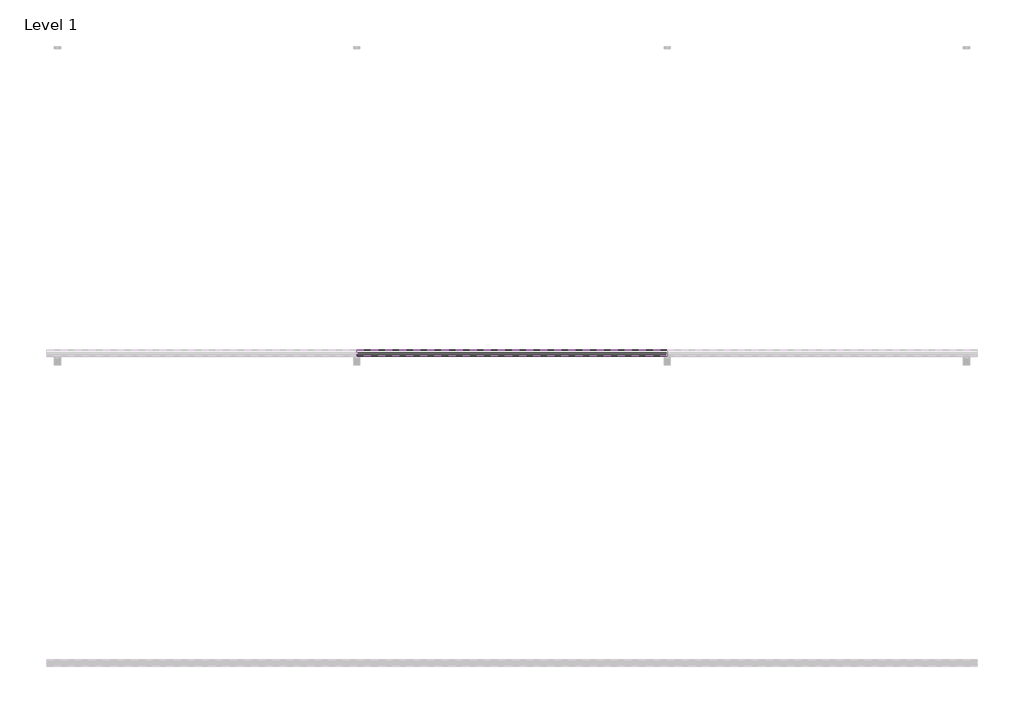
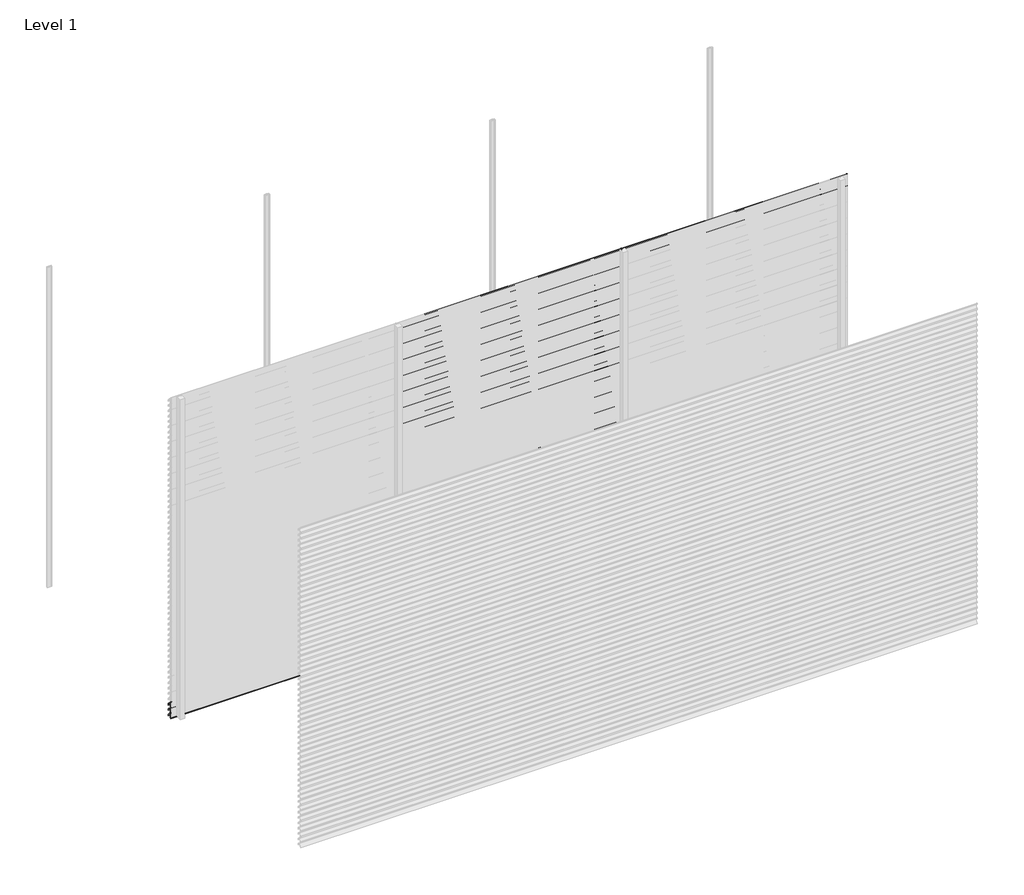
# One storey, part 19 of 38: 66 proxies.
"""IFC4 building model written with IfcOpenShell, lengths in millimetres."""

from ifc_helpers import new_model, si_unit, frame, origin, place, context, project, spatial, polyline, outline, extrude, element, save

model = new_model("IFC4")

# Units and contexts
model_context = context("Model", 3, world=origin())
ifc_project = project(units=[si_unit("LENGTHUNIT", "METRE", prefix="MILLI")], contexts=[model_context])

# Site, building, storey
site = spatial("IfcSite", under=ifc_project)
building = spatial("IfcBuilding", under=site)
storey = spatial("IfcBuildingStorey", under=building, Name="Level 1", Elevation=0.0)

# Proxies
placement = place(None, origin())
element("IfcBuildingElementProxy", 1, Name="Wall Sweeps", at=placement, inside=storey, context=model_context, shape_type="SweptSolid", body=[
    extrude(outline(polyline([(-29996.75, 150.0), (-29996.75, 139.19656), (-29974.6057113, 126.4115489), (-29957.0, 109.0472005), (-29957.0, 94.0472005), (-29958.3, 95.0268207), (-29958.3, 108.5034593), (-29969.4914725, 119.541504), (-29994.2797376, 90.0), (-29995.9767671, 90.0), (-29970.4200307, 120.4573323), (-29975.3999793, 125.3690091), (-29998.0, 138.4171371), (-29998.0, 150.0), (-29996.75, 150.0)])), frame((0.0, 0.0, 0.0), z_axis=(1.0, 0.0, 0.0), x_axis=(0.0, 1.0, 0.0)), (0.0, 0.0, 1.0), 2000.0),
])
element("IfcBuildingElementProxy", 2, Name="Wall Sweeps", at=placement, inside=storey, context=model_context, shape_type="SweptSolid", body=[
    extrude(outline(polyline([(-29996.75, 100.0), (-29996.75, 89.19656), (-29974.6057113, 76.4115489), (-29957.0, 59.0472005), (-29957.0, 44.0472005), (-29958.3, 45.0268207), (-29958.3, 58.5034593), (-29969.4914725, 69.541504), (-29994.2797376, 40.0), (-29995.9767671, 40.0), (-29970.4200307, 70.4573323), (-29975.3999793, 75.3690091), (-29998.0, 88.4171371), (-29998.0, 100.0), (-29996.75, 100.0)])), frame((0.0, 0.0, 0.0), z_axis=(1.0, 0.0, 0.0), x_axis=(0.0, 1.0, 0.0)), (0.0, 0.0, 1.0), 2000.0),
])
element("IfcBuildingElementProxy", 3, Name="Wall Sweeps", at=placement, inside=storey, context=model_context, shape_type="SweptSolid", body=[
    extrude(outline(polyline([(-29996.75, 50.0), (-29996.75, 39.19656), (-29974.6057113, 26.4115489), (-29957.0, 9.0472005), (-29957.0, -5.9527995), (-29958.3, -4.9731793), (-29958.3, 8.5034593), (-29969.4914725, 19.541504), (-29994.2797376, -10.0), (-29995.9767671, -10.0), (-29970.4200307, 20.4573323), (-29975.3999793, 25.3690091), (-29998.0, 38.4171371), (-29998.0, 50.0), (-29996.75, 50.0)])), frame((0.0, 0.0, 0.0), z_axis=(1.0, 0.0, 0.0), x_axis=(0.0, 1.0, 0.0)), (0.0, 0.0, 1.0), 2000.0),
])
element("IfcBuildingElementProxy", 4, Name="Wall Sweeps", at=placement, inside=storey, context=model_context, shape_type="SweptSolid", body=[
    extrude(outline(polyline([(-29996.75, 3000.0), (-29996.75, 2989.19656), (-29974.6057113, 2976.4115489), (-29957.0, 2959.0472005), (-29957.0, 2944.0472005), (-29958.3, 2945.0268207), (-29958.3, 2958.5034593), (-29969.4914725, 2969.541504), (-29994.2797376, 2940.0), (-29995.9767671, 2940.0), (-29970.4200307, 2970.4573323), (-29975.3999793, 2975.3690091), (-29998.0, 2988.4171371), (-29998.0, 3000.0), (-29996.75, 3000.0)])), frame((2000.0, 0.0, 0.0), z_axis=(1.0, 0.0, 0.0), x_axis=(0.0, 1.0, 0.0)), (0.0, 0.0, 1.0), 2000.0),
])
element("IfcBuildingElementProxy", 5, Name="Wall Sweeps", at=placement, inside=storey, context=model_context, shape_type="SweptSolid", body=[
    extrude(outline(polyline([(-29996.75, 2950.0), (-29996.75, 2939.19656), (-29974.6057113, 2926.4115489), (-29957.0, 2909.0472005), (-29957.0, 2894.0472005), (-29958.3, 2895.0268207), (-29958.3, 2908.5034593), (-29969.4914725, 2919.541504), (-29994.2797376, 2890.0), (-29995.9767671, 2890.0), (-29970.4200307, 2920.4573323), (-29975.3999793, 2925.3690091), (-29998.0, 2938.4171371), (-29998.0, 2950.0), (-29996.75, 2950.0)])), frame((2000.0, 0.0, 0.0), z_axis=(1.0, 0.0, 0.0), x_axis=(0.0, 1.0, 0.0)), (0.0, 0.0, 1.0), 2000.0),
])
element("IfcBuildingElementProxy", 6, Name="Wall Sweeps", at=placement, inside=storey, context=model_context, shape_type="SweptSolid", body=[
    extrude(outline(polyline([(-29996.75, 2900.0), (-29996.75, 2889.19656), (-29974.6057113, 2876.4115489), (-29957.0, 2859.0472005), (-29957.0, 2844.0472005), (-29958.3, 2845.0268207), (-29958.3, 2858.5034593), (-29969.4914725, 2869.541504), (-29994.2797376, 2840.0), (-29995.9767671, 2840.0), (-29970.4200307, 2870.4573323), (-29975.3999793, 2875.3690091), (-29998.0, 2888.4171371), (-29998.0, 2900.0), (-29996.75, 2900.0)])), frame((2000.0, 0.0, 0.0), z_axis=(1.0, 0.0, 0.0), x_axis=(0.0, 1.0, 0.0)), (0.0, 0.0, 1.0), 2000.0),
])
element("IfcBuildingElementProxy", 7, Name="Wall Sweeps", at=placement, inside=storey, context=model_context, shape_type="SweptSolid", body=[
    extrude(outline(polyline([(-29996.75, 2850.0), (-29996.75, 2839.19656), (-29974.6057113, 2826.4115489), (-29957.0, 2809.0472005), (-29957.0, 2794.0472005), (-29958.3, 2795.0268207), (-29958.3, 2808.5034593), (-29969.4914725, 2819.541504), (-29994.2797376, 2790.0), (-29995.9767671, 2790.0), (-29970.4200307, 2820.4573323), (-29975.3999793, 2825.3690091), (-29998.0, 2838.4171371), (-29998.0, 2850.0), (-29996.75, 2850.0)])), frame((2000.0, 0.0, 0.0), z_axis=(1.0, 0.0, 0.0), x_axis=(0.0, 1.0, 0.0)), (0.0, 0.0, 1.0), 2000.0),
])
element("IfcBuildingElementProxy", 8, Name="Wall Sweeps", at=placement, inside=storey, context=model_context, shape_type="SweptSolid", body=[
    extrude(outline(polyline([(-29996.75, 2800.0), (-29996.75, 2789.19656), (-29974.6057113, 2776.4115489), (-29957.0, 2759.0472005), (-29957.0, 2744.0472005), (-29958.3, 2745.0268207), (-29958.3, 2758.5034593), (-29969.4914725, 2769.541504), (-29994.2797376, 2740.0), (-29995.9767671, 2740.0), (-29970.4200307, 2770.4573323), (-29975.3999793, 2775.3690091), (-29998.0, 2788.4171371), (-29998.0, 2800.0), (-29996.75, 2800.0)])), frame((2000.0, 0.0, 0.0), z_axis=(1.0, 0.0, 0.0), x_axis=(0.0, 1.0, 0.0)), (0.0, 0.0, 1.0), 2000.0),
])
element("IfcBuildingElementProxy", 9, Name="Wall Sweeps", at=placement, inside=storey, context=model_context, shape_type="SweptSolid", body=[
    extrude(outline(polyline([(-29996.75, 2750.0), (-29996.75, 2739.19656), (-29974.6057113, 2726.4115489), (-29957.0, 2709.0472005), (-29957.0, 2694.0472005), (-29958.3, 2695.0268207), (-29958.3, 2708.5034593), (-29969.4914725, 2719.541504), (-29994.2797376, 2690.0), (-29995.9767671, 2690.0), (-29970.4200307, 2720.4573323), (-29975.3999793, 2725.3690091), (-29998.0, 2738.4171371), (-29998.0, 2750.0), (-29996.75, 2750.0)])), frame((2000.0, 0.0, 0.0), z_axis=(1.0, 0.0, 0.0), x_axis=(0.0, 1.0, 0.0)), (0.0, 0.0, 1.0), 2000.0),
])
element("IfcBuildingElementProxy", 10, Name="Wall Sweeps", at=placement, inside=storey, context=model_context, shape_type="SweptSolid", body=[
    extrude(outline(polyline([(-29996.75, 2700.0), (-29996.75, 2689.19656), (-29974.6057113, 2676.4115489), (-29957.0, 2659.0472005), (-29957.0, 2644.0472005), (-29958.3, 2645.0268207), (-29958.3, 2658.5034593), (-29969.4914725, 2669.541504), (-29994.2797376, 2640.0), (-29995.9767671, 2640.0), (-29970.4200307, 2670.4573323), (-29975.3999793, 2675.3690091), (-29998.0, 2688.4171371), (-29998.0, 2700.0), (-29996.75, 2700.0)])), frame((2000.0, 0.0, 0.0), z_axis=(1.0, 0.0, 0.0), x_axis=(0.0, 1.0, 0.0)), (0.0, 0.0, 1.0), 2000.0),
])
element("IfcBuildingElementProxy", 11, Name="Wall Sweeps", at=placement, inside=storey, context=model_context, shape_type="SweptSolid", body=[
    extrude(outline(polyline([(-29996.75, 2650.0), (-29996.75, 2639.19656), (-29974.6057113, 2626.4115489), (-29957.0, 2609.0472005), (-29957.0, 2594.0472005), (-29958.3, 2595.0268207), (-29958.3, 2608.5034593), (-29969.4914725, 2619.541504), (-29994.2797376, 2590.0), (-29995.9767671, 2590.0), (-29970.4200307, 2620.4573323), (-29975.3999793, 2625.3690091), (-29998.0, 2638.4171371), (-29998.0, 2650.0), (-29996.75, 2650.0)])), frame((2000.0, 0.0, 0.0), z_axis=(1.0, 0.0, 0.0), x_axis=(0.0, 1.0, 0.0)), (0.0, 0.0, 1.0), 2000.0),
])
element("IfcBuildingElementProxy", 12, Name="Wall Sweeps", at=placement, inside=storey, context=model_context, shape_type="SweptSolid", body=[
    extrude(outline(polyline([(-29996.75, 2600.0), (-29996.75, 2589.19656), (-29974.6057113, 2576.4115489), (-29957.0, 2559.0472005), (-29957.0, 2544.0472005), (-29958.3, 2545.0268207), (-29958.3, 2558.5034593), (-29969.4914725, 2569.541504), (-29994.2797376, 2540.0), (-29995.9767671, 2540.0), (-29970.4200307, 2570.4573323), (-29975.3999793, 2575.3690091), (-29998.0, 2588.4171371), (-29998.0, 2600.0), (-29996.75, 2600.0)])), frame((2000.0, 0.0, 0.0), z_axis=(1.0, 0.0, 0.0), x_axis=(0.0, 1.0, 0.0)), (0.0, 0.0, 1.0), 2000.0),
])
element("IfcBuildingElementProxy", 13, Name="Wall Sweeps", at=placement, inside=storey, context=model_context, shape_type="SweptSolid", body=[
    extrude(outline(polyline([(-29996.75, 2550.0), (-29996.75, 2539.19656), (-29974.6057113, 2526.4115489), (-29957.0, 2509.0472005), (-29957.0, 2494.0472005), (-29958.3, 2495.0268207), (-29958.3, 2508.5034593), (-29969.4914725, 2519.541504), (-29994.2797376, 2490.0), (-29995.9767671, 2490.0), (-29970.4200307, 2520.4573323), (-29975.3999793, 2525.3690091), (-29998.0, 2538.4171371), (-29998.0, 2550.0), (-29996.75, 2550.0)])), frame((2000.0, 0.0, 0.0), z_axis=(1.0, 0.0, 0.0), x_axis=(0.0, 1.0, 0.0)), (0.0, 0.0, 1.0), 2000.0),
])
element("IfcBuildingElementProxy", 14, Name="Wall Sweeps", at=placement, inside=storey, context=model_context, shape_type="SweptSolid", body=[
    extrude(outline(polyline([(-29996.75, 2500.0), (-29996.75, 2489.19656), (-29974.6057113, 2476.4115489), (-29957.0, 2459.0472005), (-29957.0, 2444.0472005), (-29958.3, 2445.0268207), (-29958.3, 2458.5034593), (-29969.4914725, 2469.541504), (-29994.2797376, 2440.0), (-29995.9767671, 2440.0), (-29970.4200307, 2470.4573323), (-29975.3999793, 2475.3690091), (-29998.0, 2488.4171371), (-29998.0, 2500.0), (-29996.75, 2500.0)])), frame((2000.0, 0.0, 0.0), z_axis=(1.0, 0.0, 0.0), x_axis=(0.0, 1.0, 0.0)), (0.0, 0.0, 1.0), 2000.0),
])
element("IfcBuildingElementProxy", 15, Name="Wall Sweeps", at=placement, inside=storey, context=model_context, shape_type="SweptSolid", body=[
    extrude(outline(polyline([(-29996.75, 2450.0), (-29996.75, 2439.19656), (-29974.6057113, 2426.4115489), (-29957.0, 2409.0472005), (-29957.0, 2394.0472005), (-29958.3, 2395.0268207), (-29958.3, 2408.5034593), (-29969.4914725, 2419.541504), (-29994.2797376, 2390.0), (-29995.9767671, 2390.0), (-29970.4200307, 2420.4573323), (-29975.3999793, 2425.3690091), (-29998.0, 2438.4171371), (-29998.0, 2450.0), (-29996.75, 2450.0)])), frame((2000.0, 0.0, 0.0), z_axis=(1.0, 0.0, 0.0), x_axis=(0.0, 1.0, 0.0)), (0.0, 0.0, 1.0), 2000.0),
])
element("IfcBuildingElementProxy", 16, Name="Wall Sweeps", at=placement, inside=storey, context=model_context, shape_type="SweptSolid", body=[
    extrude(outline(polyline([(-29996.75, 2400.0), (-29996.75, 2389.19656), (-29974.6057113, 2376.4115489), (-29957.0, 2359.0472005), (-29957.0, 2344.0472005), (-29958.3, 2345.0268207), (-29958.3, 2358.5034593), (-29969.4914725, 2369.541504), (-29994.2797376, 2340.0), (-29995.9767671, 2340.0), (-29970.4200307, 2370.4573323), (-29975.3999793, 2375.3690091), (-29998.0, 2388.4171371), (-29998.0, 2400.0), (-29996.75, 2400.0)])), frame((2000.0, 0.0, 0.0), z_axis=(1.0, 0.0, 0.0), x_axis=(0.0, 1.0, 0.0)), (0.0, 0.0, 1.0), 2000.0),
])
element("IfcBuildingElementProxy", 17, Name="Wall Sweeps", at=placement, inside=storey, context=model_context, shape_type="SweptSolid", body=[
    extrude(outline(polyline([(-29996.75, 2350.0), (-29996.75, 2339.19656), (-29974.6057113, 2326.4115489), (-29957.0, 2309.0472005), (-29957.0, 2294.0472005), (-29958.3, 2295.0268207), (-29958.3, 2308.5034593), (-29969.4914725, 2319.541504), (-29994.2797376, 2290.0), (-29995.9767671, 2290.0), (-29970.4200307, 2320.4573323), (-29975.3999793, 2325.3690091), (-29998.0, 2338.4171371), (-29998.0, 2350.0), (-29996.75, 2350.0)])), frame((2000.0, 0.0, 0.0), z_axis=(1.0, 0.0, 0.0), x_axis=(0.0, 1.0, 0.0)), (0.0, 0.0, 1.0), 2000.0),
])
element("IfcBuildingElementProxy", 18, Name="Wall Sweeps", at=placement, inside=storey, context=model_context, shape_type="SweptSolid", body=[
    extrude(outline(polyline([(-29996.75, 2300.0), (-29996.75, 2289.19656), (-29974.6057113, 2276.4115489), (-29957.0, 2259.0472005), (-29957.0, 2244.0472005), (-29958.3, 2245.0268207), (-29958.3, 2258.5034593), (-29969.4914725, 2269.541504), (-29994.2797376, 2240.0), (-29995.9767671, 2240.0), (-29970.4200307, 2270.4573323), (-29975.3999793, 2275.3690091), (-29998.0, 2288.4171371), (-29998.0, 2300.0), (-29996.75, 2300.0)])), frame((2000.0, 0.0, 0.0), z_axis=(1.0, 0.0, 0.0), x_axis=(0.0, 1.0, 0.0)), (0.0, 0.0, 1.0), 2000.0),
])
element("IfcBuildingElementProxy", 19, Name="Wall Sweeps", at=placement, inside=storey, context=model_context, shape_type="SweptSolid", body=[
    extrude(outline(polyline([(-29996.75, 2250.0), (-29996.75, 2239.19656), (-29974.6057113, 2226.4115489), (-29957.0, 2209.0472005), (-29957.0, 2194.0472005), (-29958.3, 2195.0268207), (-29958.3, 2208.5034593), (-29969.4914725, 2219.541504), (-29994.2797376, 2190.0), (-29995.9767671, 2190.0), (-29970.4200307, 2220.4573323), (-29975.3999793, 2225.3690091), (-29998.0, 2238.4171371), (-29998.0, 2250.0), (-29996.75, 2250.0)])), frame((2000.0, 0.0, 0.0), z_axis=(1.0, 0.0, 0.0), x_axis=(0.0, 1.0, 0.0)), (0.0, 0.0, 1.0), 2000.0),
])
element("IfcBuildingElementProxy", 20, Name="Wall Sweeps", at=placement, inside=storey, context=model_context, shape_type="SweptSolid", body=[
    extrude(outline(polyline([(-29996.75, 2200.0), (-29996.75, 2189.19656), (-29974.6057113, 2176.4115489), (-29957.0, 2159.0472005), (-29957.0, 2144.0472005), (-29958.3, 2145.0268207), (-29958.3, 2158.5034593), (-29969.4914725, 2169.541504), (-29994.2797376, 2140.0), (-29995.9767671, 2140.0), (-29970.4200307, 2170.4573323), (-29975.3999793, 2175.3690091), (-29998.0, 2188.4171371), (-29998.0, 2200.0), (-29996.75, 2200.0)])), frame((2000.0, 0.0, 0.0), z_axis=(1.0, 0.0, 0.0), x_axis=(0.0, 1.0, 0.0)), (0.0, 0.0, 1.0), 2000.0),
])
element("IfcBuildingElementProxy", 21, Name="Wall Sweeps", at=placement, inside=storey, context=model_context, shape_type="SweptSolid", body=[
    extrude(outline(polyline([(-29996.75, 2150.0), (-29996.75, 2139.19656), (-29974.6057113, 2126.4115489), (-29957.0, 2109.0472005), (-29957.0, 2094.0472005), (-29958.3, 2095.0268207), (-29958.3, 2108.5034593), (-29969.4914725, 2119.541504), (-29994.2797376, 2090.0), (-29995.9767671, 2090.0), (-29970.4200307, 2120.4573323), (-29975.3999793, 2125.3690091), (-29998.0, 2138.4171371), (-29998.0, 2150.0), (-29996.75, 2150.0)])), frame((2000.0, 0.0, 0.0), z_axis=(1.0, 0.0, 0.0), x_axis=(0.0, 1.0, 0.0)), (0.0, 0.0, 1.0), 2000.0),
])
element("IfcBuildingElementProxy", 22, Name="Wall Sweeps", at=placement, inside=storey, context=model_context, shape_type="SweptSolid", body=[
    extrude(outline(polyline([(-29996.75, 2100.0), (-29996.75, 2089.19656), (-29974.6057113, 2076.4115489), (-29957.0, 2059.0472005), (-29957.0, 2044.0472005), (-29958.3, 2045.0268207), (-29958.3, 2058.5034593), (-29969.4914725, 2069.541504), (-29994.2797376, 2040.0), (-29995.9767671, 2040.0), (-29970.4200307, 2070.4573323), (-29975.3999793, 2075.3690091), (-29998.0, 2088.4171371), (-29998.0, 2100.0), (-29996.75, 2100.0)])), frame((2000.0, 0.0, 0.0), z_axis=(1.0, 0.0, 0.0), x_axis=(0.0, 1.0, 0.0)), (0.0, 0.0, 1.0), 2000.0),
])
element("IfcBuildingElementProxy", 23, Name="Wall Sweeps", at=placement, inside=storey, context=model_context, shape_type="SweptSolid", body=[
    extrude(outline(polyline([(-29996.75, 2050.0), (-29996.75, 2039.19656), (-29974.6057113, 2026.4115489), (-29957.0, 2009.0472005), (-29957.0, 1994.0472005), (-29958.3, 1995.0268207), (-29958.3, 2008.5034593), (-29969.4914725, 2019.541504), (-29994.2797376, 1990.0), (-29995.9767671, 1990.0), (-29970.4200307, 2020.4573323), (-29975.3999793, 2025.3690091), (-29998.0, 2038.4171371), (-29998.0, 2050.0), (-29996.75, 2050.0)])), frame((2000.0, 0.0, 0.0), z_axis=(1.0, 0.0, 0.0), x_axis=(0.0, 1.0, 0.0)), (0.0, 0.0, 1.0), 2000.0),
])
element("IfcBuildingElementProxy", 24, Name="Wall Sweeps", at=placement, inside=storey, context=model_context, shape_type="SweptSolid", body=[
    extrude(outline(polyline([(-29996.75, 2000.0), (-29996.75, 1989.19656), (-29974.6057113, 1976.4115489), (-29957.0, 1959.0472005), (-29957.0, 1944.0472005), (-29958.3, 1945.0268207), (-29958.3, 1958.5034593), (-29969.4914725, 1969.541504), (-29994.2797376, 1940.0), (-29995.9767671, 1940.0), (-29970.4200307, 1970.4573323), (-29975.3999793, 1975.3690091), (-29998.0, 1988.4171371), (-29998.0, 2000.0), (-29996.75, 2000.0)])), frame((2000.0, 0.0, 0.0), z_axis=(1.0, 0.0, 0.0), x_axis=(0.0, 1.0, 0.0)), (0.0, 0.0, 1.0), 2000.0),
])
element("IfcBuildingElementProxy", 25, Name="Wall Sweeps", at=placement, inside=storey, context=model_context, shape_type="SweptSolid", body=[
    extrude(outline(polyline([(-29996.75, 1950.0), (-29996.75, 1939.19656), (-29974.6057113, 1926.4115489), (-29957.0, 1909.0472005), (-29957.0, 1894.0472005), (-29958.3, 1895.0268207), (-29958.3, 1908.5034593), (-29969.4914725, 1919.541504), (-29994.2797376, 1890.0), (-29995.9767671, 1890.0), (-29970.4200307, 1920.4573323), (-29975.3999793, 1925.3690091), (-29998.0, 1938.4171371), (-29998.0, 1950.0), (-29996.75, 1950.0)])), frame((2000.0, 0.0, 0.0), z_axis=(1.0, 0.0, 0.0), x_axis=(0.0, 1.0, 0.0)), (0.0, 0.0, 1.0), 2000.0),
])
element("IfcBuildingElementProxy", 26, Name="Wall Sweeps", at=placement, inside=storey, context=model_context, shape_type="SweptSolid", body=[
    extrude(outline(polyline([(-29996.75, 1900.0), (-29996.75, 1889.19656), (-29974.6057113, 1876.4115489), (-29957.0, 1859.0472005), (-29957.0, 1844.0472005), (-29958.3, 1845.0268207), (-29958.3, 1858.5034593), (-29969.4914725, 1869.541504), (-29994.2797376, 1840.0), (-29995.9767671, 1840.0), (-29970.4200307, 1870.4573323), (-29975.3999793, 1875.3690091), (-29998.0, 1888.4171371), (-29998.0, 1900.0), (-29996.75, 1900.0)])), frame((2000.0, 0.0, 0.0), z_axis=(1.0, 0.0, 0.0), x_axis=(0.0, 1.0, 0.0)), (0.0, 0.0, 1.0), 2000.0),
])
element("IfcBuildingElementProxy", 27, Name="Wall Sweeps", at=placement, inside=storey, context=model_context, shape_type="SweptSolid", body=[
    extrude(outline(polyline([(-29996.75, 1850.0), (-29996.75, 1839.19656), (-29974.6057113, 1826.4115489), (-29957.0, 1809.0472005), (-29957.0, 1794.0472005), (-29958.3, 1795.0268207), (-29958.3, 1808.5034593), (-29969.4914725, 1819.541504), (-29994.2797376, 1790.0), (-29995.9767671, 1790.0), (-29970.4200307, 1820.4573323), (-29975.3999793, 1825.3690091), (-29998.0, 1838.4171371), (-29998.0, 1850.0), (-29996.75, 1850.0)])), frame((2000.0, 0.0, 0.0), z_axis=(1.0, 0.0, 0.0), x_axis=(0.0, 1.0, 0.0)), (0.0, 0.0, 1.0), 2000.0),
])
element("IfcBuildingElementProxy", 28, Name="Wall Sweeps", at=placement, inside=storey, context=model_context, shape_type="SweptSolid", body=[
    extrude(outline(polyline([(-29996.75, 1800.0), (-29996.75, 1789.19656), (-29974.6057113, 1776.4115489), (-29957.0, 1759.0472005), (-29957.0, 1744.0472005), (-29958.3, 1745.0268207), (-29958.3, 1758.5034593), (-29969.4914725, 1769.541504), (-29994.2797376, 1740.0), (-29995.9767671, 1740.0), (-29970.4200307, 1770.4573323), (-29975.3999793, 1775.3690091), (-29998.0, 1788.4171371), (-29998.0, 1800.0), (-29996.75, 1800.0)])), frame((2000.0, 0.0, 0.0), z_axis=(1.0, 0.0, 0.0), x_axis=(0.0, 1.0, 0.0)), (0.0, 0.0, 1.0), 2000.0),
])
element("IfcBuildingElementProxy", 29, Name="Wall Sweeps", at=placement, inside=storey, context=model_context, shape_type="SweptSolid", body=[
    extrude(outline(polyline([(-29996.75, 1750.0), (-29996.75, 1739.19656), (-29974.6057113, 1726.4115489), (-29957.0, 1709.0472005), (-29957.0, 1694.0472005), (-29958.3, 1695.0268207), (-29958.3, 1708.5034593), (-29969.4914725, 1719.541504), (-29994.2797376, 1690.0), (-29995.9767671, 1690.0), (-29970.4200307, 1720.4573323), (-29975.3999793, 1725.3690091), (-29998.0, 1738.4171371), (-29998.0, 1750.0), (-29996.75, 1750.0)])), frame((2000.0, 0.0, 0.0), z_axis=(1.0, 0.0, 0.0), x_axis=(0.0, 1.0, 0.0)), (0.0, 0.0, 1.0), 2000.0),
])
element("IfcBuildingElementProxy", 30, Name="Wall Sweeps", at=placement, inside=storey, context=model_context, shape_type="SweptSolid", body=[
    extrude(outline(polyline([(-29996.75, 1700.0), (-29996.75, 1689.19656), (-29974.6057113, 1676.4115489), (-29957.0, 1659.0472005), (-29957.0, 1644.0472005), (-29958.3, 1645.0268207), (-29958.3, 1658.5034593), (-29969.4914725, 1669.541504), (-29994.2797376, 1640.0), (-29995.9767671, 1640.0), (-29970.4200307, 1670.4573323), (-29975.3999793, 1675.3690091), (-29998.0, 1688.4171371), (-29998.0, 1700.0), (-29996.75, 1700.0)])), frame((2000.0, 0.0, 0.0), z_axis=(1.0, 0.0, 0.0), x_axis=(0.0, 1.0, 0.0)), (0.0, 0.0, 1.0), 2000.0),
])
element("IfcBuildingElementProxy", 31, Name="Wall Sweeps", at=placement, inside=storey, context=model_context, shape_type="SweptSolid", body=[
    extrude(outline(polyline([(-29996.75, 1650.0), (-29996.75, 1639.19656), (-29974.6057113, 1626.4115489), (-29957.0, 1609.0472005), (-29957.0, 1594.0472005), (-29958.3, 1595.0268207), (-29958.3, 1608.5034593), (-29969.4914725, 1619.541504), (-29994.2797376, 1590.0), (-29995.9767671, 1590.0), (-29970.4200307, 1620.4573323), (-29975.3999793, 1625.3690091), (-29998.0, 1638.4171371), (-29998.0, 1650.0), (-29996.75, 1650.0)])), frame((2000.0, 0.0, 0.0), z_axis=(1.0, 0.0, 0.0), x_axis=(0.0, 1.0, 0.0)), (0.0, 0.0, 1.0), 2000.0),
])
element("IfcBuildingElementProxy", 32, Name="Wall Sweeps", at=placement, inside=storey, context=model_context, shape_type="SweptSolid", body=[
    extrude(outline(polyline([(-29996.75, 1600.0), (-29996.75, 1589.19656), (-29974.6057113, 1576.4115489), (-29957.0, 1559.0472005), (-29957.0, 1544.0472005), (-29958.3, 1545.0268207), (-29958.3, 1558.5034593), (-29969.4914725, 1569.541504), (-29994.2797376, 1540.0), (-29995.9767671, 1540.0), (-29970.4200307, 1570.4573323), (-29975.3999793, 1575.3690091), (-29998.0, 1588.4171371), (-29998.0, 1600.0), (-29996.75, 1600.0)])), frame((2000.0, 0.0, 0.0), z_axis=(1.0, 0.0, 0.0), x_axis=(0.0, 1.0, 0.0)), (0.0, 0.0, 1.0), 2000.0),
])
element("IfcBuildingElementProxy", 33, Name="Wall Sweeps", at=placement, inside=storey, context=model_context, shape_type="SweptSolid", body=[
    extrude(outline(polyline([(-29996.75, 1550.0), (-29996.75, 1539.19656), (-29974.6057113, 1526.4115489), (-29957.0, 1509.0472005), (-29957.0, 1494.0472005), (-29958.3, 1495.0268207), (-29958.3, 1508.5034593), (-29969.4914725, 1519.541504), (-29994.2797376, 1490.0), (-29995.9767671, 1490.0), (-29970.4200307, 1520.4573323), (-29975.3999793, 1525.3690091), (-29998.0, 1538.4171371), (-29998.0, 1550.0), (-29996.75, 1550.0)])), frame((2000.0, 0.0, 0.0), z_axis=(1.0, 0.0, 0.0), x_axis=(0.0, 1.0, 0.0)), (0.0, 0.0, 1.0), 2000.0),
])
element("IfcBuildingElementProxy", 34, Name="Wall Sweeps", at=placement, inside=storey, context=model_context, shape_type="SweptSolid", body=[
    extrude(outline(polyline([(-29996.75, 1500.0), (-29996.75, 1489.19656), (-29974.6057113, 1476.4115489), (-29957.0, 1459.0472005), (-29957.0, 1444.0472005), (-29958.3, 1445.0268207), (-29958.3, 1458.5034593), (-29969.4914725, 1469.541504), (-29994.2797376, 1440.0), (-29995.9767671, 1440.0), (-29970.4200307, 1470.4573323), (-29975.3999793, 1475.3690091), (-29998.0, 1488.4171371), (-29998.0, 1500.0), (-29996.75, 1500.0)])), frame((2000.0, 0.0, 0.0), z_axis=(1.0, 0.0, 0.0), x_axis=(0.0, 1.0, 0.0)), (0.0, 0.0, 1.0), 2000.0),
])
element("IfcBuildingElementProxy", 35, Name="Wall Sweeps", at=placement, inside=storey, context=model_context, shape_type="SweptSolid", body=[
    extrude(outline(polyline([(-29996.75, 1450.0), (-29996.75, 1439.19656), (-29974.6057113, 1426.4115489), (-29957.0, 1409.0472005), (-29957.0, 1394.0472005), (-29958.3, 1395.0268207), (-29958.3, 1408.5034593), (-29969.4914725, 1419.541504), (-29994.2797376, 1390.0), (-29995.9767671, 1390.0), (-29970.4200307, 1420.4573323), (-29975.3999793, 1425.3690091), (-29998.0, 1438.4171371), (-29998.0, 1450.0), (-29996.75, 1450.0)])), frame((2000.0, 0.0, 0.0), z_axis=(1.0, 0.0, 0.0), x_axis=(0.0, 1.0, 0.0)), (0.0, 0.0, 1.0), 2000.0),
])
element("IfcBuildingElementProxy", 36, Name="Wall Sweeps", at=placement, inside=storey, context=model_context, shape_type="SweptSolid", body=[
    extrude(outline(polyline([(-29996.75, 1400.0), (-29996.75, 1389.19656), (-29974.6057113, 1376.4115489), (-29957.0, 1359.0472005), (-29957.0, 1344.0472005), (-29958.3, 1345.0268207), (-29958.3, 1358.5034593), (-29969.4914725, 1369.541504), (-29994.2797376, 1340.0), (-29995.9767671, 1340.0), (-29970.4200307, 1370.4573323), (-29975.3999793, 1375.3690091), (-29998.0, 1388.4171371), (-29998.0, 1400.0), (-29996.75, 1400.0)])), frame((2000.0, 0.0, 0.0), z_axis=(1.0, 0.0, 0.0), x_axis=(0.0, 1.0, 0.0)), (0.0, 0.0, 1.0), 2000.0),
])
element("IfcBuildingElementProxy", 37, Name="Wall Sweeps", at=placement, inside=storey, context=model_context, shape_type="SweptSolid", body=[
    extrude(outline(polyline([(-29996.75, 1350.0), (-29996.75, 1339.19656), (-29974.6057113, 1326.4115489), (-29957.0, 1309.0472005), (-29957.0, 1294.0472005), (-29958.3, 1295.0268207), (-29958.3, 1308.5034593), (-29969.4914725, 1319.541504), (-29994.2797376, 1290.0), (-29995.9767671, 1290.0), (-29970.4200307, 1320.4573323), (-29975.3999793, 1325.3690091), (-29998.0, 1338.4171371), (-29998.0, 1350.0), (-29996.75, 1350.0)])), frame((2000.0, 0.0, 0.0), z_axis=(1.0, 0.0, 0.0), x_axis=(0.0, 1.0, 0.0)), (0.0, 0.0, 1.0), 2000.0),
])
element("IfcBuildingElementProxy", 38, Name="Wall Sweeps", at=placement, inside=storey, context=model_context, shape_type="SweptSolid", body=[
    extrude(outline(polyline([(-29996.75, 1300.0), (-29996.75, 1289.19656), (-29974.6057113, 1276.4115489), (-29957.0, 1259.0472005), (-29957.0, 1244.0472005), (-29958.3, 1245.0268207), (-29958.3, 1258.5034593), (-29969.4914725, 1269.541504), (-29994.2797376, 1240.0), (-29995.9767671, 1240.0), (-29970.4200307, 1270.4573323), (-29975.3999793, 1275.3690091), (-29998.0, 1288.4171371), (-29998.0, 1300.0), (-29996.75, 1300.0)])), frame((2000.0, 0.0, 0.0), z_axis=(1.0, 0.0, 0.0), x_axis=(0.0, 1.0, 0.0)), (0.0, 0.0, 1.0), 2000.0),
])
element("IfcBuildingElementProxy", 39, Name="Wall Sweeps", at=placement, inside=storey, context=model_context, shape_type="SweptSolid", body=[
    extrude(outline(polyline([(-29996.75, 1250.0), (-29996.75, 1239.19656), (-29974.6057113, 1226.4115489), (-29957.0, 1209.0472005), (-29957.0, 1194.0472005), (-29958.3, 1195.0268207), (-29958.3, 1208.5034593), (-29969.4914725, 1219.541504), (-29994.2797376, 1190.0), (-29995.9767671, 1190.0), (-29970.4200307, 1220.4573323), (-29975.3999793, 1225.3690091), (-29998.0, 1238.4171371), (-29998.0, 1250.0), (-29996.75, 1250.0)])), frame((2000.0, 0.0, 0.0), z_axis=(1.0, 0.0, 0.0), x_axis=(0.0, 1.0, 0.0)), (0.0, 0.0, 1.0), 2000.0),
])
element("IfcBuildingElementProxy", 40, Name="Wall Sweeps", at=placement, inside=storey, context=model_context, shape_type="SweptSolid", body=[
    extrude(outline(polyline([(-29996.75, 1200.0), (-29996.75, 1189.19656), (-29974.6057113, 1176.4115489), (-29957.0, 1159.0472005), (-29957.0, 1144.0472005), (-29958.3, 1145.0268207), (-29958.3, 1158.5034593), (-29969.4914725, 1169.541504), (-29994.2797376, 1140.0), (-29995.9767671, 1140.0), (-29970.4200307, 1170.4573323), (-29975.3999793, 1175.3690091), (-29998.0, 1188.4171371), (-29998.0, 1200.0), (-29996.75, 1200.0)])), frame((2000.0, 0.0, 0.0), z_axis=(1.0, 0.0, 0.0), x_axis=(0.0, 1.0, 0.0)), (0.0, 0.0, 1.0), 2000.0),
])
element("IfcBuildingElementProxy", 41, Name="Wall Sweeps", at=placement, inside=storey, context=model_context, shape_type="SweptSolid", body=[
    extrude(outline(polyline([(-29996.75, 1150.0), (-29996.75, 1139.19656), (-29974.6057113, 1126.4115489), (-29957.0, 1109.0472005), (-29957.0, 1094.0472005), (-29958.3, 1095.0268207), (-29958.3, 1108.5034593), (-29969.4914725, 1119.541504), (-29994.2797376, 1090.0), (-29995.9767671, 1090.0), (-29970.4200307, 1120.4573323), (-29975.3999793, 1125.3690091), (-29998.0, 1138.4171371), (-29998.0, 1150.0), (-29996.75, 1150.0)])), frame((2000.0, 0.0, 0.0), z_axis=(1.0, 0.0, 0.0), x_axis=(0.0, 1.0, 0.0)), (0.0, 0.0, 1.0), 2000.0),
])
element("IfcBuildingElementProxy", 42, Name="Wall Sweeps", at=placement, inside=storey, context=model_context, shape_type="SweptSolid", body=[
    extrude(outline(polyline([(-29996.75, 1100.0), (-29996.75, 1089.19656), (-29974.6057113, 1076.4115489), (-29957.0, 1059.0472005), (-29957.0, 1044.0472005), (-29958.3, 1045.0268207), (-29958.3, 1058.5034593), (-29969.4914725, 1069.541504), (-29994.2797376, 1040.0), (-29995.9767671, 1040.0), (-29970.4200307, 1070.4573323), (-29975.3999793, 1075.3690091), (-29998.0, 1088.4171371), (-29998.0, 1100.0), (-29996.75, 1100.0)])), frame((2000.0, 0.0, 0.0), z_axis=(1.0, 0.0, 0.0), x_axis=(0.0, 1.0, 0.0)), (0.0, 0.0, 1.0), 2000.0),
])
element("IfcBuildingElementProxy", 43, Name="Wall Sweeps", at=placement, inside=storey, context=model_context, shape_type="SweptSolid", body=[
    extrude(outline(polyline([(-29996.75, 1050.0), (-29996.75, 1039.19656), (-29974.6057113, 1026.4115489), (-29957.0, 1009.0472005), (-29957.0, 994.0472005), (-29958.3, 995.0268207), (-29958.3, 1008.5034593), (-29969.4914725, 1019.541504), (-29994.2797376, 990.0), (-29995.9767671, 990.0), (-29970.4200307, 1020.4573323), (-29975.3999793, 1025.3690091), (-29998.0, 1038.4171371), (-29998.0, 1050.0), (-29996.75, 1050.0)])), frame((2000.0, 0.0, 0.0), z_axis=(1.0, 0.0, 0.0), x_axis=(0.0, 1.0, 0.0)), (0.0, 0.0, 1.0), 2000.0),
])
element("IfcBuildingElementProxy", 44, Name="Wall Sweeps", at=placement, inside=storey, context=model_context, shape_type="SweptSolid", body=[
    extrude(outline(polyline([(-29996.75, 1000.0), (-29996.75, 989.19656), (-29974.6057113, 976.4115489), (-29957.0, 959.0472005), (-29957.0, 944.0472005), (-29958.3, 945.0268207), (-29958.3, 958.5034593), (-29969.4914725, 969.541504), (-29994.2797376, 940.0), (-29995.9767671, 940.0), (-29970.4200307, 970.4573323), (-29975.3999793, 975.3690091), (-29998.0, 988.4171371), (-29998.0, 1000.0), (-29996.75, 1000.0)])), frame((2000.0, 0.0, 0.0), z_axis=(1.0, 0.0, 0.0), x_axis=(0.0, 1.0, 0.0)), (0.0, 0.0, 1.0), 2000.0),
])
element("IfcBuildingElementProxy", 45, Name="Wall Sweeps", at=placement, inside=storey, context=model_context, shape_type="SweptSolid", body=[
    extrude(outline(polyline([(-29996.75, 950.0), (-29996.75, 939.19656), (-29974.6057113, 926.4115489), (-29957.0, 909.0472005), (-29957.0, 894.0472005), (-29958.3, 895.0268207), (-29958.3, 908.5034593), (-29969.4914725, 919.541504), (-29994.2797376, 890.0), (-29995.9767671, 890.0), (-29970.4200307, 920.4573323), (-29975.3999793, 925.3690091), (-29998.0, 938.4171371), (-29998.0, 950.0), (-29996.75, 950.0)])), frame((2000.0, 0.0, 0.0), z_axis=(1.0, 0.0, 0.0), x_axis=(0.0, 1.0, 0.0)), (0.0, 0.0, 1.0), 2000.0),
])
element("IfcBuildingElementProxy", 46, Name="Wall Sweeps", at=placement, inside=storey, context=model_context, shape_type="SweptSolid", body=[
    extrude(outline(polyline([(-29996.75, 900.0), (-29996.75, 889.19656), (-29974.6057113, 876.4115489), (-29957.0, 859.0472005), (-29957.0, 844.0472005), (-29958.3, 845.0268207), (-29958.3, 858.5034593), (-29969.4914725, 869.541504), (-29994.2797376, 840.0), (-29995.9767671, 840.0), (-29970.4200307, 870.4573323), (-29975.3999793, 875.3690091), (-29998.0, 888.4171371), (-29998.0, 900.0), (-29996.75, 900.0)])), frame((2000.0, 0.0, 0.0), z_axis=(1.0, 0.0, 0.0), x_axis=(0.0, 1.0, 0.0)), (0.0, 0.0, 1.0), 2000.0),
])
element("IfcBuildingElementProxy", 47, Name="Wall Sweeps", at=placement, inside=storey, context=model_context, shape_type="SweptSolid", body=[
    extrude(outline(polyline([(-29996.75, 850.0), (-29996.75, 839.19656), (-29974.6057113, 826.4115489), (-29957.0, 809.0472005), (-29957.0, 794.0472005), (-29958.3, 795.0268207), (-29958.3, 808.5034593), (-29969.4914725, 819.541504), (-29994.2797376, 790.0), (-29995.9767671, 790.0), (-29970.4200307, 820.4573323), (-29975.3999793, 825.3690091), (-29998.0, 838.4171371), (-29998.0, 850.0), (-29996.75, 850.0)])), frame((2000.0, 0.0, 0.0), z_axis=(1.0, 0.0, 0.0), x_axis=(0.0, 1.0, 0.0)), (0.0, 0.0, 1.0), 2000.0),
])
element("IfcBuildingElementProxy", 48, Name="Wall Sweeps", at=placement, inside=storey, context=model_context, shape_type="SweptSolid", body=[
    extrude(outline(polyline([(-29996.75, 800.0), (-29996.75, 789.19656), (-29974.6057113, 776.4115489), (-29957.0, 759.0472005), (-29957.0, 744.0472005), (-29958.3, 745.0268207), (-29958.3, 758.5034593), (-29969.4914725, 769.541504), (-29994.2797376, 740.0), (-29995.9767671, 740.0), (-29970.4200307, 770.4573323), (-29975.3999793, 775.3690091), (-29998.0, 788.4171371), (-29998.0, 800.0), (-29996.75, 800.0)])), frame((2000.0, 0.0, 0.0), z_axis=(1.0, 0.0, 0.0), x_axis=(0.0, 1.0, 0.0)), (0.0, 0.0, 1.0), 2000.0),
])
element("IfcBuildingElementProxy", 49, Name="Wall Sweeps", at=placement, inside=storey, context=model_context, shape_type="SweptSolid", body=[
    extrude(outline(polyline([(-29996.75, 750.0), (-29996.75, 739.19656), (-29974.6057113, 726.4115489), (-29957.0, 709.0472005), (-29957.0, 694.0472005), (-29958.3, 695.0268207), (-29958.3, 708.5034593), (-29969.4914725, 719.541504), (-29994.2797376, 690.0), (-29995.9767671, 690.0), (-29970.4200307, 720.4573323), (-29975.3999793, 725.3690091), (-29998.0, 738.4171371), (-29998.0, 750.0), (-29996.75, 750.0)])), frame((2000.0, 0.0, 0.0), z_axis=(1.0, 0.0, 0.0), x_axis=(0.0, 1.0, 0.0)), (0.0, 0.0, 1.0), 2000.0),
])
element("IfcBuildingElementProxy", 50, Name="Wall Sweeps", at=placement, inside=storey, context=model_context, shape_type="SweptSolid", body=[
    extrude(outline(polyline([(-29996.75, 700.0), (-29996.75, 689.19656), (-29974.6057113, 676.4115489), (-29957.0, 659.0472005), (-29957.0, 644.0472005), (-29958.3, 645.0268207), (-29958.3, 658.5034593), (-29969.4914725, 669.541504), (-29994.2797376, 640.0), (-29995.9767671, 640.0), (-29970.4200307, 670.4573323), (-29975.3999793, 675.3690091), (-29998.0, 688.4171371), (-29998.0, 700.0), (-29996.75, 700.0)])), frame((2000.0, 0.0, 0.0), z_axis=(1.0, 0.0, 0.0), x_axis=(0.0, 1.0, 0.0)), (0.0, 0.0, 1.0), 2000.0),
])
element("IfcBuildingElementProxy", 51, Name="Wall Sweeps", at=placement, inside=storey, context=model_context, shape_type="SweptSolid", body=[
    extrude(outline(polyline([(-29996.75, 650.0), (-29996.75, 639.19656), (-29974.6057113, 626.4115489), (-29957.0, 609.0472005), (-29957.0, 594.0472005), (-29958.3, 595.0268207), (-29958.3, 608.5034593), (-29969.4914725, 619.541504), (-29994.2797376, 590.0), (-29995.9767671, 590.0), (-29970.4200307, 620.4573323), (-29975.3999793, 625.3690091), (-29998.0, 638.4171371), (-29998.0, 650.0), (-29996.75, 650.0)])), frame((2000.0, 0.0, 0.0), z_axis=(1.0, 0.0, 0.0), x_axis=(0.0, 1.0, 0.0)), (0.0, 0.0, 1.0), 2000.0),
])
element("IfcBuildingElementProxy", 52, Name="Wall Sweeps", at=placement, inside=storey, context=model_context, shape_type="SweptSolid", body=[
    extrude(outline(polyline([(-29996.75, 600.0), (-29996.75, 589.19656), (-29974.6057113, 576.4115489), (-29957.0, 559.0472005), (-29957.0, 544.0472005), (-29958.3, 545.0268207), (-29958.3, 558.5034593), (-29969.4914725, 569.541504), (-29994.2797376, 540.0), (-29995.9767671, 540.0), (-29970.4200307, 570.4573323), (-29975.3999793, 575.3690091), (-29998.0, 588.4171371), (-29998.0, 600.0), (-29996.75, 600.0)])), frame((2000.0, 0.0, 0.0), z_axis=(1.0, 0.0, 0.0), x_axis=(0.0, 1.0, 0.0)), (0.0, 0.0, 1.0), 2000.0),
])
element("IfcBuildingElementProxy", 53, Name="Wall Sweeps", at=placement, inside=storey, context=model_context, shape_type="SweptSolid", body=[
    extrude(outline(polyline([(-29996.75, 550.0), (-29996.75, 539.19656), (-29974.6057113, 526.4115489), (-29957.0, 509.0472005), (-29957.0, 494.0472005), (-29958.3, 495.0268207), (-29958.3, 508.5034593), (-29969.4914725, 519.541504), (-29994.2797376, 490.0), (-29995.9767671, 490.0), (-29970.4200307, 520.4573323), (-29975.3999793, 525.3690091), (-29998.0, 538.4171371), (-29998.0, 550.0), (-29996.75, 550.0)])), frame((2000.0, 0.0, 0.0), z_axis=(1.0, 0.0, 0.0), x_axis=(0.0, 1.0, 0.0)), (0.0, 0.0, 1.0), 2000.0),
])
element("IfcBuildingElementProxy", 54, Name="Wall Sweeps", at=placement, inside=storey, context=model_context, shape_type="SweptSolid", body=[
    extrude(outline(polyline([(-29996.75, 500.0), (-29996.75, 489.19656), (-29974.6057113, 476.4115489), (-29957.0, 459.0472005), (-29957.0, 444.0472005), (-29958.3, 445.0268207), (-29958.3, 458.5034593), (-29969.4914725, 469.541504), (-29994.2797376, 440.0), (-29995.9767671, 440.0), (-29970.4200307, 470.4573323), (-29975.3999793, 475.3690091), (-29998.0, 488.4171371), (-29998.0, 500.0), (-29996.75, 500.0)])), frame((2000.0, 0.0, 0.0), z_axis=(1.0, 0.0, 0.0), x_axis=(0.0, 1.0, 0.0)), (0.0, 0.0, 1.0), 2000.0),
])
element("IfcBuildingElementProxy", 55, Name="Wall Sweeps", at=placement, inside=storey, context=model_context, shape_type="SweptSolid", body=[
    extrude(outline(polyline([(-29996.75, 450.0), (-29996.75, 439.19656), (-29974.6057113, 426.4115489), (-29957.0, 409.0472005), (-29957.0, 394.0472005), (-29958.3, 395.0268207), (-29958.3, 408.5034593), (-29969.4914725, 419.541504), (-29994.2797376, 390.0), (-29995.9767671, 390.0), (-29970.4200307, 420.4573323), (-29975.3999793, 425.3690091), (-29998.0, 438.4171371), (-29998.0, 450.0), (-29996.75, 450.0)])), frame((2000.0, 0.0, 0.0), z_axis=(1.0, 0.0, 0.0), x_axis=(0.0, 1.0, 0.0)), (0.0, 0.0, 1.0), 2000.0),
])
element("IfcBuildingElementProxy", 56, Name="Wall Sweeps", at=placement, inside=storey, context=model_context, shape_type="SweptSolid", body=[
    extrude(outline(polyline([(-29996.75, 400.0), (-29996.75, 389.19656), (-29974.6057113, 376.4115489), (-29957.0, 359.0472005), (-29957.0, 344.0472005), (-29958.3, 345.0268207), (-29958.3, 358.5034593), (-29969.4914725, 369.541504), (-29994.2797376, 340.0), (-29995.9767671, 340.0), (-29970.4200307, 370.4573323), (-29975.3999793, 375.3690091), (-29998.0, 388.4171371), (-29998.0, 400.0), (-29996.75, 400.0)])), frame((2000.0, 0.0, 0.0), z_axis=(1.0, 0.0, 0.0), x_axis=(0.0, 1.0, 0.0)), (0.0, 0.0, 1.0), 2000.0),
])
element("IfcBuildingElementProxy", 57, Name="Wall Sweeps", at=placement, inside=storey, context=model_context, shape_type="SweptSolid", body=[
    extrude(outline(polyline([(-29996.75, 350.0), (-29996.75, 339.19656), (-29974.6057113, 326.4115489), (-29957.0, 309.0472005), (-29957.0, 294.0472005), (-29958.3, 295.0268207), (-29958.3, 308.5034593), (-29969.4914725, 319.541504), (-29994.2797376, 290.0), (-29995.9767671, 290.0), (-29970.4200307, 320.4573323), (-29975.3999793, 325.3690091), (-29998.0, 338.4171371), (-29998.0, 350.0), (-29996.75, 350.0)])), frame((2000.0, 0.0, 0.0), z_axis=(1.0, 0.0, 0.0), x_axis=(0.0, 1.0, 0.0)), (0.0, 0.0, 1.0), 2000.0),
])
element("IfcBuildingElementProxy", 58, Name="Wall Sweeps", at=placement, inside=storey, context=model_context, shape_type="SweptSolid", body=[
    extrude(outline(polyline([(-29996.75, 300.0), (-29996.75, 289.19656), (-29974.6057113, 276.4115489), (-29957.0, 259.0472005), (-29957.0, 244.0472005), (-29958.3, 245.0268207), (-29958.3, 258.5034593), (-29969.4914725, 269.541504), (-29994.2797376, 240.0), (-29995.9767671, 240.0), (-29970.4200307, 270.4573323), (-29975.3999793, 275.3690091), (-29998.0, 288.4171371), (-29998.0, 300.0), (-29996.75, 300.0)])), frame((2000.0, 0.0, 0.0), z_axis=(1.0, 0.0, 0.0), x_axis=(0.0, 1.0, 0.0)), (0.0, 0.0, 1.0), 2000.0),
])
element("IfcBuildingElementProxy", 59, Name="Wall Sweeps", at=placement, inside=storey, context=model_context, shape_type="SweptSolid", body=[
    extrude(outline(polyline([(-29996.75, 250.0), (-29996.75, 239.19656), (-29974.6057113, 226.4115489), (-29957.0, 209.0472005), (-29957.0, 194.0472005), (-29958.3, 195.0268207), (-29958.3, 208.5034593), (-29969.4914725, 219.541504), (-29994.2797376, 190.0), (-29995.9767671, 190.0), (-29970.4200307, 220.4573323), (-29975.3999793, 225.3690091), (-29998.0, 238.4171371), (-29998.0, 250.0), (-29996.75, 250.0)])), frame((2000.0, 0.0, 0.0), z_axis=(1.0, 0.0, 0.0), x_axis=(0.0, 1.0, 0.0)), (0.0, 0.0, 1.0), 2000.0),
])
element("IfcBuildingElementProxy", 60, Name="Wall Sweeps", at=placement, inside=storey, context=model_context, shape_type="SweptSolid", body=[
    extrude(outline(polyline([(-29996.75, 200.0), (-29996.75, 189.19656), (-29974.6057113, 176.4115489), (-29957.0, 159.0472005), (-29957.0, 144.0472005), (-29958.3, 145.0268207), (-29958.3, 158.5034593), (-29969.4914725, 169.541504), (-29994.2797376, 140.0), (-29995.9767671, 140.0), (-29970.4200307, 170.4573323), (-29975.3999793, 175.3690091), (-29998.0, 188.4171371), (-29998.0, 200.0), (-29996.75, 200.0)])), frame((2000.0, 0.0, 0.0), z_axis=(1.0, 0.0, 0.0), x_axis=(0.0, 1.0, 0.0)), (0.0, 0.0, 1.0), 2000.0),
])
element("IfcBuildingElementProxy", 61, Name="Wall Sweeps", at=placement, inside=storey, context=model_context, shape_type="SweptSolid", body=[
    extrude(outline(polyline([(-29996.75, 150.0), (-29996.75, 139.19656), (-29974.6057113, 126.4115489), (-29957.0, 109.0472005), (-29957.0, 94.0472005), (-29958.3, 95.0268207), (-29958.3, 108.5034593), (-29969.4914725, 119.541504), (-29994.2797376, 90.0), (-29995.9767671, 90.0), (-29970.4200307, 120.4573323), (-29975.3999793, 125.3690091), (-29998.0, 138.4171371), (-29998.0, 150.0), (-29996.75, 150.0)])), frame((2000.0, 0.0, 0.0), z_axis=(1.0, 0.0, 0.0), x_axis=(0.0, 1.0, 0.0)), (0.0, 0.0, 1.0), 2000.0),
])
element("IfcBuildingElementProxy", 62, Name="Wall Sweeps", at=placement, inside=storey, context=model_context, shape_type="SweptSolid", body=[
    extrude(outline(polyline([(-29996.75, 100.0), (-29996.75, 89.19656), (-29974.6057113, 76.4115489), (-29957.0, 59.0472005), (-29957.0, 44.0472005), (-29958.3, 45.0268207), (-29958.3, 58.5034593), (-29969.4914725, 69.541504), (-29994.2797376, 40.0), (-29995.9767671, 40.0), (-29970.4200307, 70.4573323), (-29975.3999793, 75.3690091), (-29998.0, 88.4171371), (-29998.0, 100.0), (-29996.75, 100.0)])), frame((2000.0, 0.0, 0.0), z_axis=(1.0, 0.0, 0.0), x_axis=(0.0, 1.0, 0.0)), (0.0, 0.0, 1.0), 2000.0),
])
element("IfcBuildingElementProxy", 63, Name="Wall Sweeps", at=placement, inside=storey, context=model_context, shape_type="SweptSolid", body=[
    extrude(outline(polyline([(-29996.75, 50.0), (-29996.75, 39.19656), (-29974.6057113, 26.4115489), (-29957.0, 9.0472005), (-29957.0, -5.9527995), (-29958.3, -4.9731793), (-29958.3, 8.5034593), (-29969.4914725, 19.541504), (-29994.2797376, -10.0), (-29995.9767671, -10.0), (-29970.4200307, 20.4573323), (-29975.3999793, 25.3690091), (-29998.0, 38.4171371), (-29998.0, 50.0), (-29996.75, 50.0)])), frame((2000.0, 0.0, 0.0), z_axis=(1.0, 0.0, 0.0), x_axis=(0.0, 1.0, 0.0)), (0.0, 0.0, 1.0), 2000.0),
])
element("IfcBuildingElementProxy", 64, Name="Wall Sweeps", at=placement, inside=storey, context=model_context, shape_type="SweptSolid", body=[
    extrude(outline(polyline([(-29996.75, 3000.0), (-29996.75, 2989.19656), (-29974.6057113, 2976.4115489), (-29957.0, 2959.0472005), (-29957.0, 2944.0472005), (-29958.3, 2945.0268207), (-29958.3, 2958.5034593), (-29969.4914725, 2969.541504), (-29994.2797376, 2940.0), (-29995.9767671, 2940.0), (-29970.4200307, 2970.4573323), (-29975.3999793, 2975.3690091), (-29998.0, 2988.4171371), (-29998.0, 3000.0), (-29996.75, 3000.0)])), frame((4000.0, 0.0, 0.0), z_axis=(1.0, 0.0, 0.0), x_axis=(0.0, 1.0, 0.0)), (0.0, 0.0, 1.0), 2000.0),
])
element("IfcBuildingElementProxy", 65, Name="Wall Sweeps", at=placement, inside=storey, context=model_context, shape_type="SweptSolid", body=[
    extrude(outline(polyline([(-29996.75, 2950.0), (-29996.75, 2939.19656), (-29974.6057113, 2926.4115489), (-29957.0, 2909.0472005), (-29957.0, 2894.0472005), (-29958.3, 2895.0268207), (-29958.3, 2908.5034593), (-29969.4914725, 2919.541504), (-29994.2797376, 2890.0), (-29995.9767671, 2890.0), (-29970.4200307, 2920.4573323), (-29975.3999793, 2925.3690091), (-29998.0, 2938.4171371), (-29998.0, 2950.0), (-29996.75, 2950.0)])), frame((4000.0, 0.0, 0.0), z_axis=(1.0, 0.0, 0.0), x_axis=(0.0, 1.0, 0.0)), (0.0, 0.0, 1.0), 2000.0),
])
element("IfcBuildingElementProxy", 66, Name="Wall Sweeps", at=placement, inside=storey, context=model_context, shape_type="SweptSolid", body=[
    extrude(outline(polyline([(-29996.75, 2900.0), (-29996.75, 2889.19656), (-29974.6057113, 2876.4115489), (-29957.0, 2859.0472005), (-29957.0, 2844.0472005), (-29958.3, 2845.0268207), (-29958.3, 2858.5034593), (-29969.4914725, 2869.541504), (-29994.2797376, 2840.0), (-29995.9767671, 2840.0), (-29970.4200307, 2870.4573323), (-29975.3999793, 2875.3690091), (-29998.0, 2888.4171371), (-29998.0, 2900.0), (-29996.75, 2900.0)])), frame((4000.0, 0.0, 0.0), z_axis=(1.0, 0.0, 0.0), x_axis=(0.0, 1.0, 0.0)), (0.0, 0.0, 1.0), 2000.0),
])

save(model, "model.ifc")
